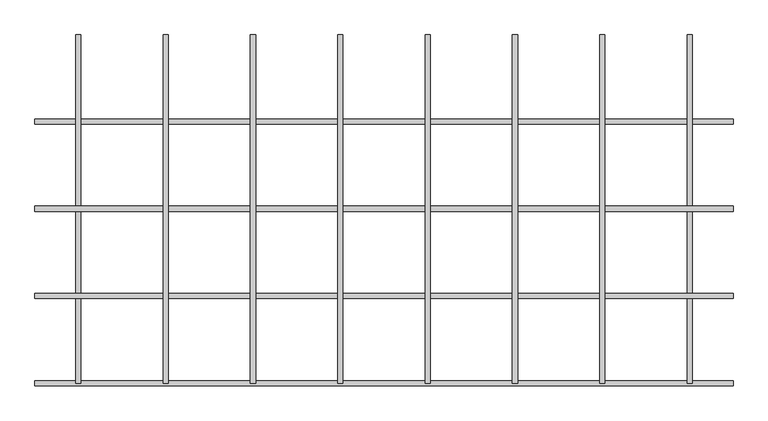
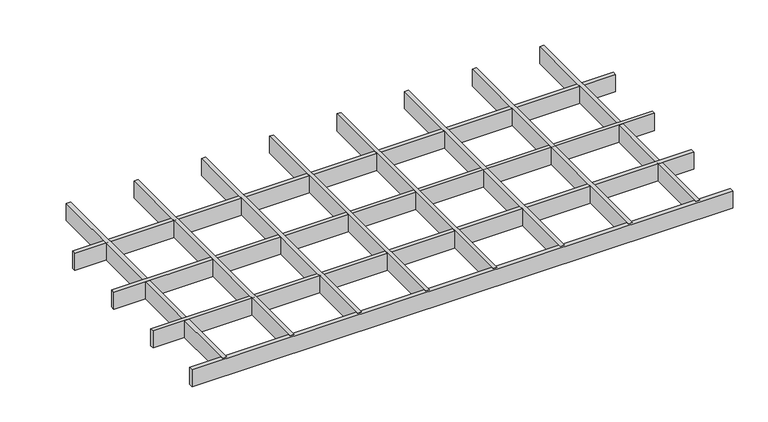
"""IFC4 building model written with IfcOpenShell, lengths in millimetres: proxy geometry, durlum_GEO_panel : durlum_GEO_9."""

from ifc_helpers import new_model, si_unit, origin, origin_with_axes, place, context, project, spatial, polyline, outline, extrude, source, transform, mapped, element, save


def generic_models_375b31eb(model_context):
    return source(origin(), model_context, "Body", "SweptSolid", [
        extrude(outline(polyline([(370.5, 299.5), (379.5, 299.5), (379.5, -299.5), (370.5, -299.5), (370.5, 299.5)])), origin_with_axes(), (0.0, 0.0, 1.0), 40.0),
        extrude(outline(polyline([(220.5, 299.5), (229.5, 299.5), (229.5, -299.5), (220.5, -299.5), (220.5, 299.5)])), origin_with_axes(), (0.0, 0.0, 1.0), 40.0),
        extrude(outline(polyline([(70.5, 299.5), (79.5, 299.5), (79.5, -299.5), (70.5, -299.5), (70.5, 299.5)])), origin_with_axes(), (0.0, 0.0, 1.0), 40.0),
        extrude(outline(polyline([(-79.5, 299.5), (-70.5, 299.5), (-70.5, -299.5), (-79.5, -299.5), (-79.5, 299.5)])), origin_with_axes(), (0.0, 0.0, 1.0), 40.0),
        extrude(outline(polyline([(-229.5, 299.5), (-220.5, 299.5), (-220.5, -299.5), (-229.5, -299.5), (-229.5, 299.5)])), origin_with_axes(), (0.0, 0.0, 1.0), 40.0),
        extrude(outline(polyline([(-379.5, 299.5), (-370.5, 299.5), (-370.5, -299.5), (-379.5, -299.5), (-379.5, 299.5)])), origin_with_axes(), (0.0, 0.0, 1.0), 40.0),
        extrude(outline(polyline([(599.5, -145.0), (599.5, -154.0), (-599.5, -154.0), (-599.5, -145.0), (599.5, -145.0)])), origin_with_axes(), (0.0, 0.0, 1.0), 40.0),
        extrude(outline(polyline([(599.5, 5.0), (599.5, -4.0), (-599.5, -4.0), (-599.5, 5.0), (599.5, 5.0)])), origin_with_axes(), (0.0, 0.0, 1.0), 40.0),
        extrude(outline(polyline([(520.5, 299.5), (529.5, 299.5), (529.5, -299.5), (520.5, -299.5), (520.5, 299.5)])), origin_with_axes(), (0.0, 0.0, 1.0), 40.0),
        extrude(outline(polyline([(-529.5, 299.5), (-520.5, 299.5), (-520.5, -299.5), (-529.5, -299.5), (-529.5, 299.5)])), origin_with_axes(), (0.0, 0.0, 1.0), 40.0),
        extrude(outline(polyline([(599.5, -295.0), (599.5, -304.0), (-599.5, -304.0), (-599.5, -295.0), (599.5, -295.0)])), origin_with_axes(), (0.0, 0.0, 1.0), 40.0),
        extrude(outline(polyline([(599.5, 155.0), (599.5, 146.0), (-599.5, 146.0), (-599.5, 155.0), (599.5, 155.0)])), origin_with_axes(), (0.0, 0.0, 1.0), 40.0),
    ])


if __name__ == "__main__":
    model = new_model("IFC4")
    model_context = context("Model", 3, world=origin())
    ifc_project = project(units=[si_unit("LENGTHUNIT", "METRE", prefix="MILLI")], contexts=[model_context])
    site = spatial("IfcSite", under=ifc_project)
    building = spatial("IfcBuilding", under=site)
    placement = place(None, origin())
    generic_models_shape = generic_models_375b31eb(model_context)
    element("IfcBuildingElementProxy", 1, Name="durlum_GEO_panel : durlum_GEO_9", ObjectType="durlum_GEO_panel : durlum_GEO_9", at=placement, inside=building, context=model_context, shape_type="MappedRepresentation", body=[
        mapped(generic_models_shape, transform((0.0, 0.0, 0.0), x_axis=(1.0, 0.0, 0.0), y_axis=(0.0, 1.0, 0.0), z_axis=(0.0, 0.0, 1.0))),
    ])
    save(model, "model.ifc")
